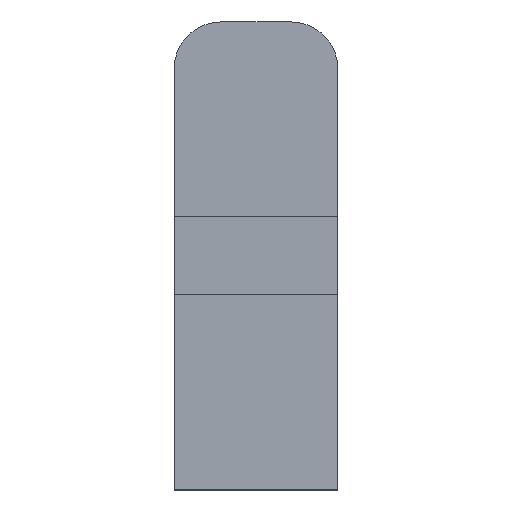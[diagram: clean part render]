
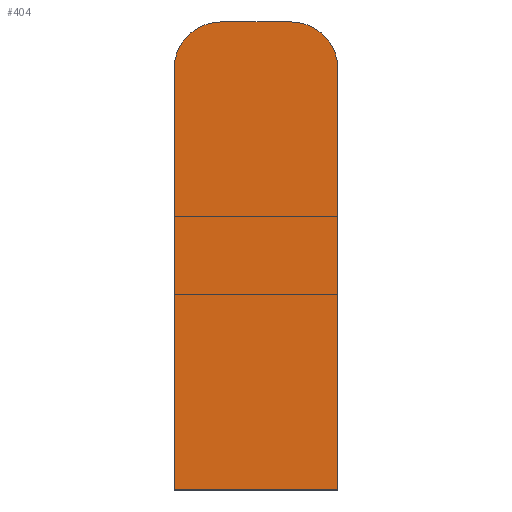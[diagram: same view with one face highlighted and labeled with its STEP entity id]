
A CAD part, front view. The second image highlights one B-rep face of the part: STEP entity #404.
In plain terms, the highlighted planar face has unit normal (0, -1, 0).
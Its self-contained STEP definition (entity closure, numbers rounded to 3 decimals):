
#1 = VERTEX_POINT ( 'NONE', #5 ) ;
#2 = VERTEX_POINT ( 'NONE', #245 ) ;
#4 = VERTEX_POINT ( 'NONE', #251 ) ;
#5 = CARTESIAN_POINT ( 'NONE',  ( -2.25, 0., 13.5 ) ) ;
#6 = CARTESIAN_POINT ( 'NONE',  ( 5.25, 0., 10.5 ) ) ;
#8 = VERTEX_POINT ( 'NONE', #6 ) ;
#22 = EDGE_CURVE ( 'NONE', #236, #1, #163, .T. ) ;
#24 = EDGE_CURVE ( 'NONE', #1, #2, #85, .T. ) ;
#34 = AXIS2_PLACEMENT_3D ( 'NONE', #280, #279, #278 ) ;
#55 = EDGE_CURVE ( 'NONE', #2, #238, #137, .T. ) ;
#56 = EDGE_CURVE ( 'NONE', #8, #236, #82, .T. ) ;
#63 = AXIS2_PLACEMENT_3D ( 'NONE', #353, #356, #357 ) ;
#64 = EDGE_CURVE ( 'NONE', #238, #4, #130, .T. ) ;
#66 = AXIS2_PLACEMENT_3D ( 'NONE', #299, #307, #308 ) ;
#73 = EDGE_CURVE ( 'NONE', #4, #8, #124, .T. ) ;
#82 = CIRCLE ( 'NONE', #66, 3. ) ;
#85 = CIRCLE ( 'NONE', #34, 3. ) ;
#98 = FACE_OUTER_BOUND ( 'NONE', #143, .T. ) ;
#116 = VECTOR ( 'NONE', #306, 1000. ) ;
#124 = LINE ( 'NONE', #329, #125 ) ;
#125 = VECTOR ( 'NONE', #330, 1000. ) ;
#130 = LINE ( 'NONE', #313, #132 ) ;
#132 = VECTOR ( 'NONE', #314, 1000. ) ;
#137 = LINE ( 'NONE', #305, #116 ) ;
#143 = EDGE_LOOP ( 'NONE', ( #191, #173, #199, #200, #179, #183 ) ) ;
#163 = LINE ( 'NONE', #261, #198 ) ;
#173 = ORIENTED_EDGE ( 'NONE', *, *, #56, .T. ) ;
#179 = ORIENTED_EDGE ( 'NONE', *, *, #55, .T. ) ;
#183 = ORIENTED_EDGE ( 'NONE', *, *, #64, .T. ) ;
#191 = ORIENTED_EDGE ( 'NONE', *, *, #73, .T. ) ;
#198 = VECTOR ( 'NONE', #291, 1000. ) ;
#199 = ORIENTED_EDGE ( 'NONE', *, *, #22, .T. ) ;
#200 = ORIENTED_EDGE ( 'NONE', *, *, #24, .T. ) ;
#236 = VERTEX_POINT ( 'NONE', #331 ) ;
#238 = VERTEX_POINT ( 'NONE', #326 ) ;
#245 = CARTESIAN_POINT ( 'NONE',  ( -5.25, 0., 10.5 ) ) ;
#251 = CARTESIAN_POINT ( 'NONE',  ( 5.25, 0., -16.5 ) ) ;
#261 = CARTESIAN_POINT ( 'NONE',  ( 2.25, 0., 13.5 ) ) ;
#278 = DIRECTION ( 'NONE',  ( -1., 0., 0. ) ) ;
#279 = DIRECTION ( 'NONE',  ( 0., -1., 0. ) ) ;
#280 = CARTESIAN_POINT ( 'NONE',  ( -2.25, 0., 10.5 ) ) ;
#291 = DIRECTION ( 'NONE',  ( -1., 0., 0. ) ) ;
#299 = CARTESIAN_POINT ( 'NONE',  ( 2.25, 0., 10.5 ) ) ;
#305 = CARTESIAN_POINT ( 'NONE',  ( -5.25, 0., -16.5 ) ) ;
#306 = DIRECTION ( 'NONE',  ( 0., 0., -1. ) ) ;
#307 = DIRECTION ( 'NONE',  ( 0., -1., 0. ) ) ;
#308 = DIRECTION ( 'NONE',  ( -1., 0., 0. ) ) ;
#313 = CARTESIAN_POINT ( 'NONE',  ( 5.25, 0., -16.5 ) ) ;
#314 = DIRECTION ( 'NONE',  ( 1., 0., 0. ) ) ;
#326 = CARTESIAN_POINT ( 'NONE',  ( -5.25, 0., -16.5 ) ) ;
#329 = CARTESIAN_POINT ( 'NONE',  ( 5.25, 0., -16.5 ) ) ;
#330 = DIRECTION ( 'NONE',  ( 0., 0., 1. ) ) ;
#331 = CARTESIAN_POINT ( 'NONE',  ( 2.25, 0., 13.5 ) ) ;
#353 = CARTESIAN_POINT ( 'NONE',  ( 0., 0., -1.5 ) ) ;
#354 = PLANE ( 'NONE',  #63 ) ;
#356 = DIRECTION ( 'NONE',  ( 0., 1., 0. ) ) ;
#357 = DIRECTION ( 'NONE',  ( -1., 0., 0. ) ) ;
#404 = ADVANCED_FACE ( 'NONE', ( #98 ), #354, .F. ) ;
